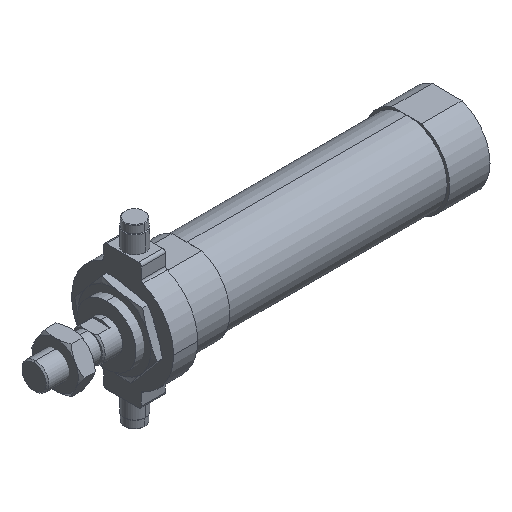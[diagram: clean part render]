
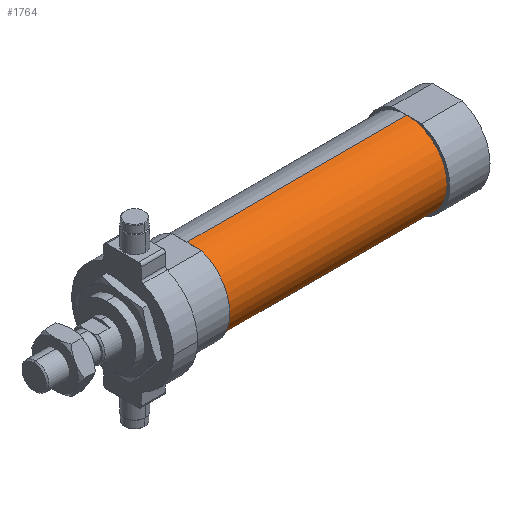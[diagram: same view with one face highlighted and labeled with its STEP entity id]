
A CAD part, isometric view. The second image highlights one B-rep face of the part: STEP entity #1764.
In plain terms, the highlighted cylindrical face has radius 15 mm (diameter 30 mm), a partial arc.
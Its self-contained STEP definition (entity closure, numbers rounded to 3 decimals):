
#9 = DIRECTION ( 'NONE',  ( 0., 0., 1. ) ) ;
#52 = CARTESIAN_POINT ( 'NONE',  ( 57., 0., -15. ) ) ;
#172 = DIRECTION ( 'NONE',  ( -1., 0., 0. ) ) ;
#234 = AXIS2_PLACEMENT_3D ( 'NONE', #3601, #172, #2571 ) ;
#257 = AXIS2_PLACEMENT_3D ( 'NONE', #3501, #793, #9 ) ;
#392 = CARTESIAN_POINT ( 'NONE',  ( 139., 0., -15. ) ) ;
#518 = ORIENTED_EDGE ( 'NONE', *, *, #3696, .F. ) ;
#600 = ORIENTED_EDGE ( 'NONE', *, *, #1612, .T. ) ;
#793 = DIRECTION ( 'NONE',  ( -1., 0., 0. ) ) ;
#960 = VERTEX_POINT ( 'NONE', #1386 ) ;
#971 = EDGE_CURVE ( 'NONE', #1375, #2736, #4355, .T. ) ;
#1231 = AXIS2_PLACEMENT_3D ( 'NONE', #3412, #1388, #3803 ) ;
#1281 = ORIENTED_EDGE ( 'NONE', *, *, #2283, .T. ) ;
#1375 = VERTEX_POINT ( 'NONE', #392 ) ;
#1386 = CARTESIAN_POINT ( 'NONE',  ( 57., 0., 15. ) ) ;
#1388 = DIRECTION ( 'NONE',  ( -1., 0., 0. ) ) ;
#1393 = CARTESIAN_POINT ( 'NONE',  ( -6.469, 0., -15. ) ) ;
#1516 = EDGE_LOOP ( 'NONE', ( #2178, #1281, #600, #518 ) ) ;
#1572 = CIRCLE ( 'NONE', #257, 15. ) ;
#1612 = EDGE_CURVE ( 'NONE', #3813, #960, #4097, .T. ) ;
#1762 = DIRECTION ( 'NONE',  ( -1., 0., 0. ) ) ;
#1764 = ADVANCED_FACE ( 'NONE', ( #2445 ), #3548, .T. ) ;
#2178 = ORIENTED_EDGE ( 'NONE', *, *, #971, .F. ) ;
#2283 = EDGE_CURVE ( 'NONE', #1375, #3813, #3860, .T. ) ;
#2289 = VECTOR ( 'NONE', #4271, 1000. ) ;
#2445 = FACE_OUTER_BOUND ( 'NONE', #1516, .T. ) ;
#2571 = DIRECTION ( 'NONE',  ( 0., 0., 1. ) ) ;
#2736 = VERTEX_POINT ( 'NONE', #52 ) ;
#3257 = VECTOR ( 'NONE', #1762, 1000. ) ;
#3412 = CARTESIAN_POINT ( 'NONE',  ( -6.469, 0., 0. ) ) ;
#3501 = CARTESIAN_POINT ( 'NONE',  ( 57., 0., 0. ) ) ;
#3548 = CYLINDRICAL_SURFACE ( 'NONE', #1231, 15. ) ;
#3601 = CARTESIAN_POINT ( 'NONE',  ( 139., 0., 0. ) ) ;
#3696 = EDGE_CURVE ( 'NONE', #2736, #960, #1572, .T. ) ;
#3803 = DIRECTION ( 'NONE',  ( 0., 0., 1. ) ) ;
#3813 = VERTEX_POINT ( 'NONE', #3877 ) ;
#3860 = CIRCLE ( 'NONE', #234, 15. ) ;
#3877 = CARTESIAN_POINT ( 'NONE',  ( 139., 0., 15. ) ) ;
#3895 = CARTESIAN_POINT ( 'NONE',  ( -6.469, 0., 15. ) ) ;
#4097 = LINE ( 'NONE', #3895, #2289 ) ;
#4271 = DIRECTION ( 'NONE',  ( -1., 0., 0. ) ) ;
#4355 = LINE ( 'NONE', #1393, #3257 ) ;
